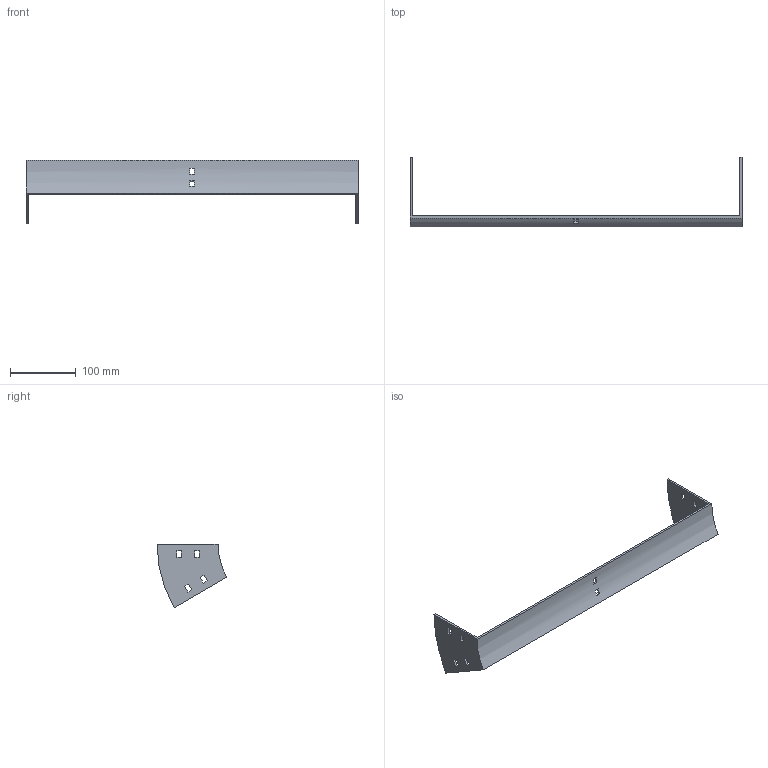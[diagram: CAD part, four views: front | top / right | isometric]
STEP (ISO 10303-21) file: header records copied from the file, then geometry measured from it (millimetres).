
FILE_DESCRIPTION (( 'STEP AP214' ), '1' );
FILE_NAME ('35B1I500.step', '2025-02-21T09:27:08', ( '' ), ( '' ), 'SwSTEP 2.0', 'SolidWorks 2023', '' );
FILE_SCHEMA (( 'AUTOMOTIVE_DESIGN' ));
Length unit declared in the file: millimetre
Products named in the file (1): 35B1I500
Bounding box: 504 x 105.9 x 96.25 mm (x, y, z)
Volume: 139881.9 mm3; surface area: 86577.7 mm2
Topology: 1 solids, 1 shells, 50 faces, 144 edges, 96 vertices
Faces by surface type: plane 46, cylinder 4
Entity records: 1687 total; most frequent: CARTESIAN_POINT 291, ORIENTED_EDGE 288, DIRECTION 262, EDGE_CURVE 144, VECTOR 128, LINE 128, VERTEX_POINT 96, EDGE_LOOP 70
